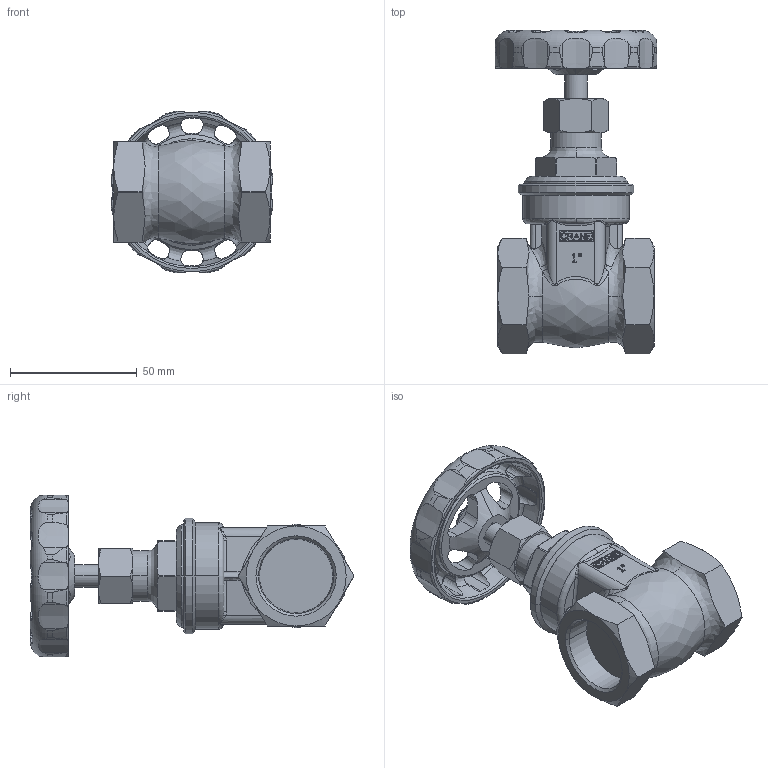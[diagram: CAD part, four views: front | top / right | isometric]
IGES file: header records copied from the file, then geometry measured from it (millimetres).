
Global section: file name: No Iges File Name specified; native system: AutoDesk Inventor R12.0; preprocessor: AutoDesk Inventor Iges Exporter R12.0; date: 20110311.110127; units: millimetre
Bounding box: 63.81 x 127.86 x 63.81 mm (x, y, z)
Volume: 134925.9 mm3; surface area: 33056 mm2
Topology: 1 solids, 1 shells, 692 faces, 1969 edges, 1291 vertices
Faces by surface type: plane 289, bspline 137, revolution 122, cylinder 88, cone 40, torus 16
